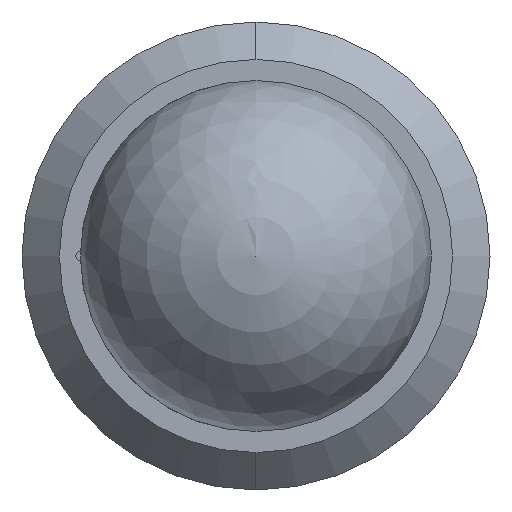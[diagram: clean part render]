
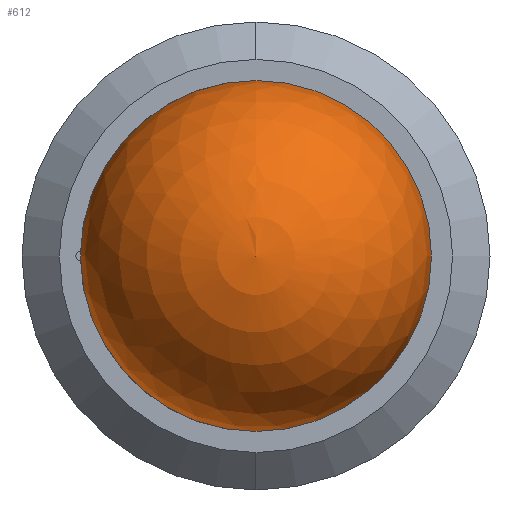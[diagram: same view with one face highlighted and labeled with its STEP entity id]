
A CAD part, left-side view. The second image highlights one B-rep face of the part: STEP entity #612.
In plain terms, the highlighted spherical face has radius 2.381 mm.
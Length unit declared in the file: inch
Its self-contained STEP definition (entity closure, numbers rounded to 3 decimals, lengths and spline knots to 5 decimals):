
#72 = CARTESIAN_POINT ( 'NONE',  ( 0., 0., 0. ) ) ;
#75 = ORIENTED_EDGE ( 'NONE', *, *, #143, .T. ) ;
#99 = CARTESIAN_POINT ( 'NONE',  ( 0., 0., 0. ) ) ;
#111 = CARTESIAN_POINT ( 'NONE',  ( 0., 0., 0. ) ) ;
#124 = DIRECTION ( 'NONE',  ( -1., 0., 0. ) ) ;
#143 = EDGE_CURVE ( 'NONE', #583, #296, #686, .T. ) ;
#152 = DIRECTION ( 'NONE',  ( -1., 0., 0. ) ) ;
#183 = DIRECTION ( 'NONE',  ( 0., 0., 1. ) ) ;
#198 = FACE_OUTER_BOUND ( 'NONE', #691, .T. ) ;
#286 = CIRCLE ( 'NONE', #485, 0.09375 ) ;
#296 = VERTEX_POINT ( 'NONE', #632 ) ;
#349 = EDGE_CURVE ( 'NONE', #583, #296, #286, .T. ) ;
#375 = AXIS2_PLACEMENT_3D ( 'NONE', #72, #124, #183 ) ;
#383 = ORIENTED_EDGE ( 'NONE', *, *, #349, .F. ) ;
#477 = DIRECTION ( 'NONE',  ( 0., 0., -1. ) ) ;
#484 = CARTESIAN_POINT ( 'NONE',  ( 0., 0.09375, 0. ) ) ;
#485 = AXIS2_PLACEMENT_3D ( 'NONE', #111, #616, #477 ) ;
#567 = DIRECTION ( 'NONE',  ( 0., 0., 1. ) ) ;
#583 = VERTEX_POINT ( 'NONE', #484 ) ;
#612 = ADVANCED_FACE ( 'NONE', ( #198 ), #675, .T. ) ;
#616 = DIRECTION ( 'NONE',  ( 1., 0., 0. ) ) ;
#632 = CARTESIAN_POINT ( 'NONE',  ( 0., -0.09375, 0. ) ) ;
#639 = AXIS2_PLACEMENT_3D ( 'NONE', #99, #152, #567 ) ;
#675 = SPHERICAL_SURFACE ( 'NONE', #375, 0.09375 ) ;
#686 = CIRCLE ( 'NONE', #639, 0.09375 ) ;
#691 = EDGE_LOOP ( 'NONE', ( #383, #75 ) ) ;
